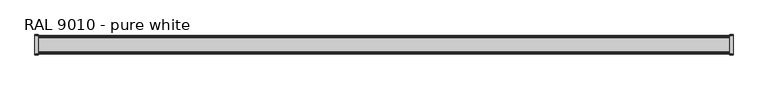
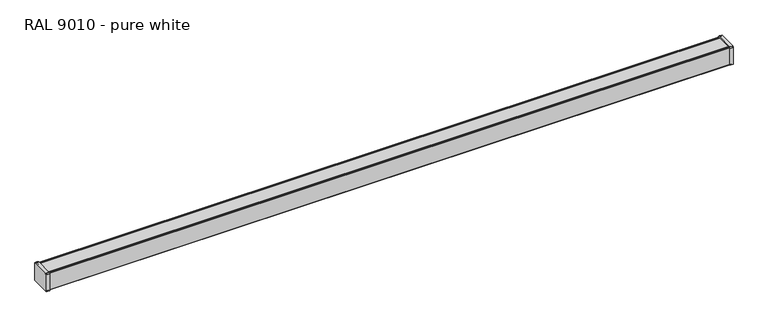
"""IFC4 building model written with IfcOpenShell, lengths in millimetres: proxy geometry, Electrical_Installations_Hager_GBD-Flat-Lid-End-Cap : RAL 9010 - pure white."""

from ifc_helpers import new_model, si_unit, point, frame, frame_2d, origin, place, context, project, spatial, polyline, circle_curve, trimmed, segment, composite_curve, outline, extrude, source, transform, mapped, element, save
from ifc_brep_helpers import plane_surface, cylinder_surface, revolved_surface, advanced_brep


def ral_9010_pure_white_b63ba4a8(model_context):
    return source(origin(), model_context, "Body", "SolidModel", [
        advanced_brep(
        [(6.7052357, 26.9958171, 52.7194117), (6.7052357, 26.9958171, 0.0), (6.7052357, 29.0032013, 0.0), (6.7052357, 29.0032013, 53.2636467), (6.7052357, 26.2636467, 56.0032013), (6.7052357, -26.1736729, 56.0032013), (6.7052357, -29.0032013, 53.1736729), (6.7052357, -29.0032013, 0.0), (6.7052357, -27.0041829, 0.0), (6.7052357, -27.0041829, 52.644978), (6.7052357, -25.6658451, 53.9833158), (6.7052357, 25.731913, 53.9833158), (0.0, 26.9958171, 52.7194117), (0.0, 26.9958171, 0.0), (0.0, -27.0041829, 0.0), (-2.4947643, -29.0032013, 0.0), (-2.4947643, 29.0032013, 0.0), (-2.4947643, 29.0032013, 53.2636467), (0.0, 29.0032013, 53.2636467), (0.0, 26.2636467, 56.0032013), (-2.4947643, 26.2636467, 56.0032013), (-2.4947643, -26.1736729, 56.0032013), (0.0, -26.1736729, 56.0032013), (0.0, -29.0032013, 53.1736729), (-2.4947643, -29.0032013, 53.1736729), (0.0, -27.0041829, 52.644978), (0.0, -25.6658451, 53.9833158), (0.0, 25.731913, 53.9833158)],
        [
            (0, 1),
            (1, 2),
            (2, 3),
            (3, 4, circle_curve(frame((6.7052357, 26.2636467, 53.2636467), z_axis=(1.0, 0.0, 0.0), x_axis=(0.0, 1.0, 0.0)), 2.7395546)),
            (4, 5),
            (5, 6, circle_curve(frame((6.7052357, -26.1736729, 53.1736729), z_axis=(1.0, 0.0, 0.0), x_axis=(0.0, 1.0, 0.0)), 2.8295284)),
            (6, 7),
            (7, 8),
            (8, 9),
            (9, 10, circle_curve(frame((6.7052357, -25.6658451, 52.644978), z_axis=(-1.0, 0.0, 0.0), x_axis=(0.0, 1.0, 0.0)), 1.3383378)),
            (10, 11),
            (11, 0, circle_curve(frame((6.7052357, 25.731913, 52.7194117), z_axis=(-1.0, 0.0, 0.0), x_axis=(0.0, 1.0, 0.0)), 1.2639041)),
            (0, 12),
            (12, 13),
            (13, 1),
            (13, 14),
            (14, 8),
            (7, 15),
            (15, 16),
            (16, 2),
            (16, 17),
            (17, 18),
            (18, 3),
            (18, 19, circle_curve(frame((0.0, 26.2636467, 53.2636467), z_axis=(1.0, 0.0, 0.0), x_axis=(0.0, 1.0, 0.0)), 2.7395546)),
            (19, 4),
            (19, 20),
            (20, 21),
            (21, 22),
            (22, 5),
            (22, 23, circle_curve(frame((0.0, -26.1736729, 53.1736729), z_axis=(1.0, 0.0, 0.0), x_axis=(0.0, 1.0, 0.0)), 2.8295284)),
            (23, 6),
            (23, 24),
            (24, 15),
            (14, 25),
            (25, 9),
            (25, 26, circle_curve(frame((0.0, -25.6658451, 52.644978), z_axis=(-1.0, 0.0, 0.0), x_axis=(0.0, 1.0, 0.0)), 1.3383378)),
            (26, 10),
            (26, 27),
            (27, 11),
            (27, 12, circle_curve(frame((0.0, 25.731913, 52.7194117), z_axis=(-1.0, 0.0, 0.0), x_axis=(0.0, 1.0, 0.0)), 1.2639041)),
            (20, 17, circle_curve(frame((-2.4947643, 26.2636467, 53.2636467), z_axis=(-1.0, 0.0, 0.0), x_axis=(0.0, -1.0, 0.0)), 2.7395546)),
            (24, 21, circle_curve(frame((-2.4947643, -26.1736729, 53.1736729), z_axis=(-1.0, 0.0, 0.0), x_axis=(0.0, -1.0, 0.0)), 2.8295284)),
        ],
        [
            plane_surface(frame((6.7052357, 0.0, 0.0), z_axis=(1.0, 0.0, 0.0), x_axis=(0.0, 0.0, 1.0))),
            plane_surface(frame((0.0, 26.9958171, 0.0), z_axis=(0.0, -1.0, 0.0), x_axis=(1.0, 0.0, 0.0))),
            plane_surface(frame((0.0, 29.0032013, 0.0), z_axis=(0.0, 0.0, -1.0), x_axis=(1.0, 0.0, 0.0))),
            plane_surface(frame((0.0, 29.0032013, 53.2636467), z_axis=(0.0, 1.0, 0.0), x_axis=(1.0, 0.0, 0.0))),
            cylinder_surface(frame((0.0, 26.2636467, 53.2636467), z_axis=(-1.0, 0.0, 0.0), x_axis=(0.0, 1.0, 0.0)), 2.7395546),
            plane_surface(frame((0.0, -26.1736729, 56.0032013), z_axis=(0.0, 0.0, 1.0), x_axis=(1.0, 0.0, 0.0))),
            cylinder_surface(frame((0.0, -26.1736729, 53.1736729), z_axis=(-1.0, 0.0, 0.0), x_axis=(0.0, 1.0, 0.0)), 2.8295284),
            plane_surface(frame((0.0, -29.0032013, 0.0), z_axis=(0.0, -1.0, 0.0), x_axis=(1.0, 0.0, 0.0))),
            plane_surface(frame((0.0, -27.0041829, 52.644978), z_axis=(0.0, 1.0, 0.0), x_axis=(1.0, 0.0, 0.0))),
            revolved_surface(polyline([(6.7052357, -24.327507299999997, 52.644978), (0.0, -24.327507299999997, 52.644978)]), (0.0, -25.6658451, 52.644978), (1.0, 0.0, 0.0)),
            plane_surface(frame((0.0, 25.731913, 53.9833158), z_axis=(0.0, 0.0, -1.0), x_axis=(1.0, 0.0, 0.0))),
            revolved_surface(polyline([(6.7052357, 26.9958171, 52.7194117), (0.0, 26.9958171, 52.7194117)]), (0.0, 25.731913, 52.7194117), (1.0, 0.0, 0.0)),
            plane_surface(frame((0.0, 0.0, 0.0), z_axis=(1.0, 0.0, 0.0), x_axis=(0.0, 0.0, 1.0))),
            plane_surface(frame((-2.4947643, 0.0, 0.0), z_axis=(-1.0, 0.0, 0.0), x_axis=(0.0, 0.0, 1.0))),
            cylinder_surface(frame((0.0, 26.2636467, 53.2636467), z_axis=(1.0, 0.0, 0.0), x_axis=(0.0, -1.0, 0.0)), 2.7395546),
            cylinder_surface(frame((0.0, -26.1736729, 53.1736729), z_axis=(1.0, 0.0, 0.0), x_axis=(0.0, -1.0, 0.0)), 2.8295284),
        ],
        [
            (0, [[1, 2, 3, 4, 5, 6, 7, 8, 9, 10, 11, 12]]),
            (1, [[-1, 13, 14, 15]]),
            (2, [[-2, -15, 16, 17, -8, 18, 19, 20]]),
            (3, [[-3, -20, 21, 22, 23]]),
            (4, [[-4, -23, 24, 25]]),
            (5, [[-5, -25, 26, 27, 28, 29]]),
            (6, [[-6, -29, 30, 31]]),
            (7, [[-18, -7, -31, 32, 33]]),
            (8, [[-9, -17, 34, 35]]),
            (9, [[-10, -35, 36, 37]]),
            (10, [[-11, -37, 38, 39]]),
            (11, [[-12, -39, 40, -13]]),
            (12, [[-16, -14, -40, -38, -36, -34]]),
            (13, [[41, -21, -19, -33, 42, -27]]),
            (14, [[-41, -26, -24, -22]]),
            (15, [[-42, -32, -30, -28]]),
        ],
    ),
        advanced_brep(
        [(1993.2947643, 26.9958171, 52.7194117), (1993.2947643, 25.731913, 53.9833158), (1993.2947643, -25.6658451, 53.9833158), (1993.2947643, -27.0041829, 52.644978), (1993.2947643, -27.0041829, 0.0), (1993.2947643, -29.0032013, 0.0), (1993.2947643, -29.0032013, 53.1736729), (1993.2947643, -26.1736729, 56.0032013), (1993.2947643, 26.2636467, 56.0032013), (1993.2947643, 29.0032013, 53.2636467), (1993.2947643, 29.0032013, 0.0), (1993.2947643, 26.9958171, 0.0), (2000.0, 26.9958171, 0.0), (2000.0, 26.9958171, 52.7194117), (2002.4947643, 29.0032013, 0.0), (2002.4947643, -29.0032013, 0.0), (2000.0, -27.0041829, 0.0), (2000.0, 29.0032013, 53.2636467), (2002.4947643, 29.0032013, 53.2636467), (2000.0, 26.2636467, 56.0032013), (2000.0, -26.1736729, 56.0032013), (2002.4947643, -26.1736729, 56.0032013), (2002.4947643, 26.2636467, 56.0032013), (2000.0, -29.0032013, 53.1736729), (2002.4947643, -29.0032013, 53.1736729), (2000.0, -27.0041829, 52.644978), (2000.0, -25.6658451, 53.9833158), (2000.0, 25.731913, 53.9833158)],
        [
            (0, 1, circle_curve(frame((1993.2947643, 25.731913, 52.7194117), z_axis=(1.0, 0.0, 0.0), x_axis=(0.0, -1.0, 0.0)), 1.2639041)),
            (1, 2),
            (2, 3, circle_curve(frame((1993.2947643, -25.6658451, 52.644978), z_axis=(1.0, 0.0, 0.0), x_axis=(0.0, -1.0, 0.0)), 1.3383378)),
            (3, 4),
            (4, 5),
            (5, 6),
            (6, 7, circle_curve(frame((1993.2947643, -26.1736729, 53.1736729), z_axis=(-1.0, 0.0, 0.0), x_axis=(0.0, -1.0, 0.0)), 2.8295284)),
            (7, 8),
            (8, 9, circle_curve(frame((1993.2947643, 26.2636467, 53.2636467), z_axis=(-1.0, 0.0, 0.0), x_axis=(0.0, -1.0, 0.0)), 2.7395546)),
            (9, 10),
            (10, 11),
            (11, 0),
            (11, 12),
            (12, 13),
            (13, 0),
            (10, 14),
            (14, 15),
            (15, 5),
            (4, 16),
            (16, 12),
            (9, 17),
            (17, 18),
            (18, 14),
            (8, 19),
            (19, 17, circle_curve(frame((2000.0, 26.2636467, 53.2636467), z_axis=(-1.0, 0.0, 0.0), x_axis=(0.0, -1.0, 0.0)), 2.7395546)),
            (7, 20),
            (20, 21),
            (21, 22),
            (22, 19),
            (6, 23),
            (23, 20, circle_curve(frame((2000.0, -26.1736729, 53.1736729), z_axis=(-1.0, 0.0, 0.0), x_axis=(0.0, -1.0, 0.0)), 2.8295284)),
            (15, 24),
            (24, 23),
            (3, 25),
            (25, 16),
            (2, 26),
            (26, 25, circle_curve(frame((2000.0, -25.6658451, 52.644978), z_axis=(1.0, 0.0, 0.0), x_axis=(0.0, -1.0, 0.0)), 1.3383378)),
            (1, 27),
            (27, 26),
            (13, 27, circle_curve(frame((2000.0, 25.731913, 52.7194117), z_axis=(1.0, 0.0, 0.0), x_axis=(0.0, -1.0, 0.0)), 1.2639041)),
            (21, 24, circle_curve(frame((2002.4947643, -26.1736729, 53.1736729), z_axis=(1.0, 0.0, 0.0), x_axis=(0.0, 1.0, 0.0)), 2.8295284)),
            (18, 22, circle_curve(frame((2002.4947643, 26.2636467, 53.2636467), z_axis=(1.0, 0.0, 0.0), x_axis=(0.0, 1.0, 0.0)), 2.7395546)),
        ],
        [
            plane_surface(frame((1993.2947643, 0.0, 0.0), z_axis=(-1.0, 0.0, 0.0), x_axis=(0.0, 0.0, 1.0))),
            plane_surface(frame((2000.0, 26.9958171, 52.7194117), z_axis=(0.0, -1.0, 0.0), x_axis=(-1.0, 0.0, 0.0))),
            plane_surface(frame((2000.0, 26.9958171, 0.0), z_axis=(0.0, 0.0, -1.0), x_axis=(-1.0, 0.0, 0.0))),
            plane_surface(frame((2000.0, 29.0032013, 0.0), z_axis=(0.0, 1.0, 0.0), x_axis=(-1.0, 0.0, 0.0))),
            cylinder_surface(frame((2000.0, 26.2636467, 53.2636467), z_axis=(1.0, 0.0, 0.0), x_axis=(0.0, -1.0, 0.0)), 2.7395546),
            plane_surface(frame((2000.0, 26.2636467, 56.0032013), z_axis=(0.0, 0.0, 1.0), x_axis=(-1.0, 0.0, 0.0))),
            cylinder_surface(frame((2000.0, -26.1736729, 53.1736729), z_axis=(1.0, 0.0, 0.0), x_axis=(0.0, -1.0, 0.0)), 2.8295284),
            plane_surface(frame((2000.0, -29.0032013, 53.1736729), z_axis=(0.0, -1.0, 0.0), x_axis=(-1.0, 0.0, 0.0))),
            plane_surface(frame((2000.0, -27.0041829, 0.0), z_axis=(0.0, 1.0, 0.0), x_axis=(-1.0, 0.0, 0.0))),
            revolved_surface(polyline([(1993.2947643, -27.0041829, 52.644978), (2000.0, -27.0041829, 52.644978)]), (2000.0, -25.6658451, 52.644978), (-1.0, 0.0, 0.0)),
            plane_surface(frame((2000.0, -25.6658451, 53.9833158), z_axis=(0.0, 0.0, -1.0), x_axis=(-1.0, 0.0, 0.0))),
            revolved_surface(polyline([(1993.2947643, 24.468008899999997, 52.7194117), (2000.0, 24.468008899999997, 52.7194117)]), (2000.0, 25.731913, 52.7194117), (-1.0, 0.0, 0.0)),
            plane_surface(frame((2000.0, 0.0, 0.0), z_axis=(-1.0, 0.0, 0.0), x_axis=(0.0, 0.0, 1.0))),
            plane_surface(frame((2002.4947643, 0.0, 0.0), z_axis=(1.0, 0.0, 0.0), x_axis=(0.0, 0.0, 1.0))),
            cylinder_surface(frame((2000.0, 26.2636467, 53.2636467), z_axis=(-1.0, 0.0, 0.0), x_axis=(0.0, 1.0, 0.0)), 2.7395546),
            cylinder_surface(frame((2000.0, -26.1736729, 53.1736729), z_axis=(-1.0, 0.0, 0.0), x_axis=(0.0, 1.0, 0.0)), 2.8295284),
        ],
        [
            (0, [[1, 2, 3, 4, 5, 6, 7, 8, 9, 10, 11, 12]]),
            (1, [[-12, 13, 14, 15]]),
            (2, [[-11, 16, 17, 18, -5, 19, 20, -13]]),
            (3, [[-16, -10, 21, 22, 23]]),
            (4, [[-9, 24, 25, -21]]),
            (5, [[-8, 26, 27, 28, 29, -24]]),
            (6, [[-7, 30, 31, -26]]),
            (7, [[-6, -18, 32, 33, -30]]),
            (8, [[-4, 34, 35, -19]]),
            (9, [[-3, 36, 37, -34]]),
            (10, [[-2, 38, 39, -36]]),
            (11, [[-1, -15, 40, -38]]),
            (12, [[-20, -35, -37, -39, -40, -14]]),
            (13, [[-28, 41, -32, -17, -23, 42]]),
            (14, [[-42, -22, -25, -29]]),
            (15, [[-41, -27, -31, -33]]),
        ],
    ),
        extrude(outline(composite_curve([segment(polyline([(-25.3213704, 1.8), (25.2739421, 1.8), (25.2739421, 41.5), (19.2229329, 41.5), (19.2229329, 45.7520371), (20.2229329, 45.7520371), (20.2229329, 43.14375), (25.1958171, 43.14375), (25.1958171, 51.4474991), (22.4873479, 51.4474991), (22.4873479, 53.4599466)]), True, "CONTINUOUS"), segment(trimmed(circle_curve(frame_2d((23.0274013, 53.4599466)), 0.5400534), [point((22.4873479, 53.4599466))], [point((23.0274013, 54.0))], False, "CARTESIAN"), True, "CONTINUOUS"), segment(polyline([(23.0274013, 54.0), (25.5228272, 54.0)]), True, "CONTINUOUS"), segment(trimmed(circle_curve(frame_2d((25.5228272, 52.5270101)), 1.4729899), [point((25.5228272, 54.0))], [point((26.9958171, 52.5270101))], False, "CARTESIAN"), True, "CONTINUOUS"), segment(polyline([(26.9958171, 52.5270101), (26.9958171, 1.4113473)]), True, "CONTINUOUS"), segment(trimmed(circle_curve(frame_2d((25.5844698, 1.4113473)), 1.4113473), [point((26.9958171, 1.4113473))], [point((25.5844698, 0.0))], False, "CARTESIAN"), True, "CONTINUOUS"), segment(polyline([(25.5844698, 0.0), (-25.5844698, 0.0)]), True, "CONTINUOUS"), segment(trimmed(circle_curve(frame_2d((-25.5844698, 1.4197131)), 1.4197131), [point((-25.5844698, 0.0))], [point((-27.0041829, 1.4197131))], False, "CARTESIAN"), True, "CONTINUOUS"), segment(polyline([(-27.0041829, 1.4197131), (-27.0041829, 52.5285661)]), True, "CONTINUOUS"), segment(trimmed(circle_curve(frame_2d((-25.532749, 52.5285661)), 1.4714339), [point((-27.0041829, 52.5285661))], [point((-25.532749, 54.0))], False, "CARTESIAN"), True, "CONTINUOUS"), segment(polyline([(-25.532749, 54.0), (-23.0264052, 54.0)]), True, "CONTINUOUS"), segment(trimmed(circle_curve(frame_2d((-23.0264052, 53.4609701)), 0.5390299), [point((-23.0264052, 54.0))], [point((-22.4873753, 53.4609701))], False, "CARTESIAN"), True, "CONTINUOUS"), segment(polyline([(-22.4873753, 53.4609701), (-22.4873753, 51.4480769), (-25.2041829, 51.4480769), (-25.2041829, 43.14375), (-20.2229329, 43.14375), (-20.2229329, 45.7520371), (-19.2229329, 45.7520371), (-19.2229329, 41.5), (-25.3213704, 41.5), (-25.3213704, 1.8)]), True, "CONTINUOUS")], self_intersect=False)), frame((0.0, 0.0, 0.0), z_axis=(1.0, 0.0, 0.0), x_axis=(0.0, 1.0, 0.0)), (0.0, 0.0, 1.0), 2000.0),
        extrude(outline(composite_curve([segment(polyline([(-20.842297, 49.2816445), (-19.5039061, 49.2816445)]), True, "CONTINUOUS"), segment(trimmed(circle_curve(frame_2d((-19.5039061, 47.1700354)), 2.1116091), [point((-19.5039061, 49.2816445))], [point((-17.392297, 47.1700354))], False, "CARTESIAN"), True, "CONTINUOUS"), segment(polyline([(-17.392297, 47.1700354), (-17.392297, 37.6816445), (-15.492297, 37.6816445), (-15.492297, 36.8816445), (-18.392297, 36.8816445), (-18.392297, 47.3262929)]), True, "CONTINUOUS"), segment(trimmed(circle_curve(frame_2d((-19.3476486, 47.3262929)), 0.9553516), [point((-18.392297, 47.3262929))], [point((-19.3476486, 48.2816445))], True, "CARTESIAN"), True, "CONTINUOUS"), segment(polyline([(-19.3476486, 48.2816445), (-21.1454385, 48.2816445), (-21.1454385, 43.8230275), (-22.1469845, 43.8230275), (-22.1469845, 53.1065378)]), True, "CONTINUOUS"), segment(trimmed(circle_curve(frame_2d((-21.2535223, 53.1065378)), 0.8934622), [point((-22.1469845, 53.1065378))], [point((-21.2535223, 54.0))], False, "CARTESIAN"), True, "CONTINUOUS"), segment(polyline([(-21.2535223, 54.0), (21.1588976, 54.0)]), True, "CONTINUOUS"), segment(trimmed(circle_curve(frame_2d((21.1588976, 52.9918196)), 1.0081804), [point((21.1588976, 54.0))], [point((22.1469845, 53.1920991))], False, "CARTESIAN"), True, "CONTINUOUS"), segment(polyline([(22.1469845, 53.1920991), (22.1469845, 43.8230275), (21.1454385, 43.8230275), (21.1454385, 48.2816445), (19.3476486, 48.2816445)]), True, "CONTINUOUS"), segment(trimmed(circle_curve(frame_2d((19.3476486, 47.3262929)), 0.9553516), [point((19.3476486, 48.2816445))], [point((18.392297, 47.3262929))], True, "CARTESIAN"), True, "CONTINUOUS"), segment(polyline([(18.392297, 47.3262929), (18.392297, 36.8816445), (15.492297, 36.8816445), (15.492297, 37.6816445), (17.392297, 37.6816445), (17.392297, 47.1700354)]), True, "CONTINUOUS"), segment(trimmed(circle_curve(frame_2d((19.5039061, 47.1700354)), 2.1116091), [point((17.392297, 47.1700354))], [point((19.5039061, 49.2816445))], False, "CARTESIAN"), True, "CONTINUOUS"), segment(polyline([(19.5039061, 49.2816445), (20.842297, 49.2816445), (20.842297, 52.5816445), (-20.842297, 52.5816445), (-20.842297, 49.2816445)]), True, "CONTINUOUS")], self_intersect=False)), frame((0.0, 0.0, 0.0), z_axis=(1.0, 0.0, 0.0), x_axis=(0.0, 1.0, 0.0)), (0.0, 0.0, 1.0), 2000.0),
    ])


if __name__ == "__main__":
    model = new_model("IFC4")
    model_context = context("Model", 3, world=origin())
    ifc_project = project(units=[si_unit("LENGTHUNIT", "METRE", prefix="MILLI")], contexts=[model_context])
    site = spatial("IfcSite", under=ifc_project)
    building = spatial("IfcBuilding", under=site)
    placement = place(None, origin())
    ral_9010_pure_white_shape = ral_9010_pure_white_b63ba4a8(model_context)
    element("IfcBuildingElementProxy", 1, Name="Electrical_Installations_Hager_GBD-Flat-Lid-End-Cap : RAL 9010 - pure white", ObjectType="Electrical_Installations_Hager_GBD-Flat-Lid-End-Cap : RAL 9010 - pure white", at=placement, inside=building, context=model_context, shape_type="MappedRepresentation", body=[
        mapped(ral_9010_pure_white_shape, transform((0.0, 0.0, 0.0), x_axis=(1.0, 0.0, 0.0), y_axis=(0.0, 1.0, 0.0), z_axis=(0.0, 0.0, 1.0))),
    ])
    save(model, "model.ifc")
